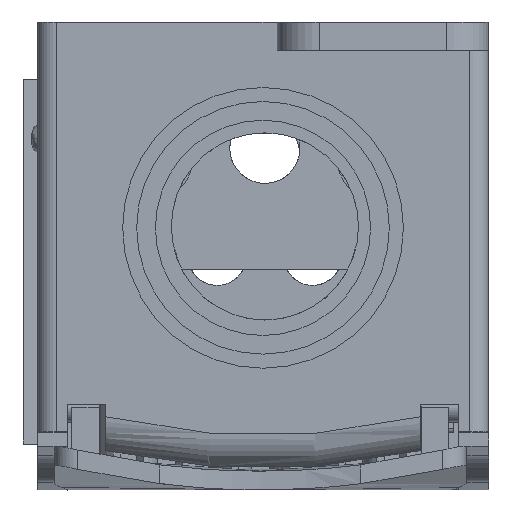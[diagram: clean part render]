
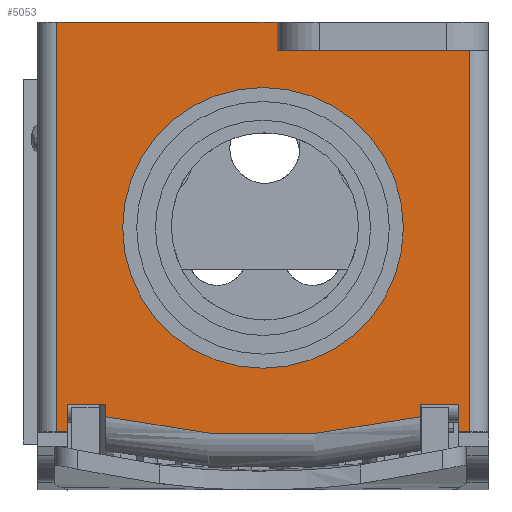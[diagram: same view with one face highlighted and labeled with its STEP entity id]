
A CAD part, front view. The second image highlights one B-rep face of the part: STEP entity #5053.
In plain terms, the highlighted planar face has unit normal (0, -1, 0).
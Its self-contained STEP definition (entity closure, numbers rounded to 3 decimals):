
#331=DIRECTION('',(-1.,0.,0.));
#332=VECTOR('',#331,1.2);
#333=CARTESIAN_POINT('',(97.74,27.7,-53.31));
#334=LINE('',#333,#332);
#344=DIRECTION('',(0.,0.,1.));
#345=VECTOR('',#344,1.263);
#346=CARTESIAN_POINT('',(92.44,27.7,-51.694));
#347=LINE('',#346,#345);
#348=CARTESIAN_POINT('',(75.64,27.7,18.014));
#349=DIRECTION('',(0.,-1.,0.));
#350=DIRECTION('',(-0.234,0.,-0.972));
#351=AXIS2_PLACEMENT_3D('',#348,#349,#350);
#353=DIRECTION('',(0.,0.,1.));
#354=VECTOR('',#353,2.879);
#355=CARTESIAN_POINT('',(54.74,27.7,-53.31));
#356=LINE('',#355,#354);
#357=CARTESIAN_POINT('',(75.64,27.7,-31.51));
#358=DIRECTION('',(0.,1.,0.));
#359=DIRECTION('',(-1.,0.,0.));
#360=AXIS2_PLACEMENT_3D('',#357,#358,#359);
#362=CARTESIAN_POINT('',(75.64,27.7,-31.51));
#363=DIRECTION('',(0.,1.,0.));
#364=DIRECTION('',(1.,0.,0.));
#365=AXIS2_PLACEMENT_3D('',#362,#363,#364);
#372=DIRECTION('',(-1.,0.,0.));
#373=VECTOR('',#372,1.2);
#374=CARTESIAN_POINT('',(54.74,27.7,-53.31));
#375=LINE('',#374,#373);
#506=DIRECTION('',(1.,0.,0.));
#507=VECTOR('',#506,23.6);
#508=CARTESIAN_POINT('',(53.54,27.7,-9.51));
#509=LINE('',#508,#507);
#625=DIRECTION('',(1.,0.,0.));
#626=VECTOR('',#625,20.6);
#627=CARTESIAN_POINT('',(77.14,27.7,-12.51));
#628=LINE('',#627,#626);
#2244=DIRECTION('',(-1.,0.,0.));
#2245=VECTOR('',#2244,4.1);
#2246=CARTESIAN_POINT('',(58.84,27.7,-50.431));
#2247=LINE('',#2246,#2245);
#2248=DIRECTION('',(0.,0.,1.));
#2249=VECTOR('',#2248,1.263);
#2250=CARTESIAN_POINT('',(58.84,27.7,-51.694));
#2251=LINE('',#2250,#2249);
#2317=DIRECTION('',(-1.,0.,0.));
#2318=VECTOR('',#2317,4.1);
#2319=CARTESIAN_POINT('',(96.54,27.7,-50.431));
#2320=LINE('',#2319,#2318);
#2321=DIRECTION('',(0.,0.,1.));
#2322=VECTOR('',#2321,2.879);
#2323=CARTESIAN_POINT('',(96.54,27.7,-53.31));
#2324=LINE('',#2323,#2322);
#3377=DIRECTION('',(0.,0.,-1.));
#3378=VECTOR('',#3377,3.);
#3379=CARTESIAN_POINT('',(77.14,27.7,-9.51));
#3380=LINE('',#3379,#3378);
#3385=DIRECTION('',(0.,0.,-1.));
#3386=VECTOR('',#3385,40.8);
#3387=CARTESIAN_POINT('',(97.74,27.7,-12.51));
#3388=LINE('',#3387,#3386);
#3425=DIRECTION('',(0.,0.,1.));
#3426=VECTOR('',#3425,43.8);
#3427=CARTESIAN_POINT('',(53.54,27.7,-53.31));
#3428=LINE('',#3427,#3426);
#3826=CARTESIAN_POINT('',(53.54,27.7,-53.31));
#3827=VERTEX_POINT('',#3826);
#3828=CARTESIAN_POINT('',(53.54,27.7,-9.51));
#3829=VERTEX_POINT('',#3828);
#3830=CARTESIAN_POINT('',(77.14,27.7,-9.51));
#3831=VERTEX_POINT('',#3830);
#3986=CARTESIAN_POINT('',(97.74,27.7,-12.51));
#3987=VERTEX_POINT('',#3986);
#3988=CARTESIAN_POINT('',(97.74,27.7,-53.31));
#3989=VERTEX_POINT('',#3988);
#3990=CARTESIAN_POINT('',(96.54,27.7,-53.31));
#3991=VERTEX_POINT('',#3990);
#4000=CARTESIAN_POINT('',(96.54,27.7,-50.431));
#4001=VERTEX_POINT('',#4000);
#4140=CARTESIAN_POINT('',(54.74,27.7,-50.431));
#4141=VERTEX_POINT('',#4140);
#4142=CARTESIAN_POINT('',(54.74,27.7,-53.31));
#4143=VERTEX_POINT('',#4142);
#4152=CARTESIAN_POINT('',(58.84,27.7,-50.431));
#4153=VERTEX_POINT('',#4152);
#4154=CARTESIAN_POINT('',(58.84,27.7,-51.694));
#4155=VERTEX_POINT('',#4154);
#4156=CARTESIAN_POINT('',(92.44,27.7,-51.694));
#4157=VERTEX_POINT('',#4156);
#4158=CARTESIAN_POINT('',(92.44,27.7,-50.431));
#4159=VERTEX_POINT('',#4158);
#4160=CARTESIAN_POINT('',(77.14,27.7,-12.51));
#4161=VERTEX_POINT('',#4160);
#4162=CARTESIAN_POINT('',(60.64,27.7,-31.51));
#4163=CARTESIAN_POINT('',(90.64,27.7,-31.51));
#4164=VERTEX_POINT('',#4162);
#4165=VERTEX_POINT('',#4163);
#5013=CARTESIAN_POINT('',(51.54,27.7,-9.51));
#5014=DIRECTION('',(0.,-1.,0.));
#5015=DIRECTION('',(0.,0.,-1.));
#5016=AXIS2_PLACEMENT_3D('',#5013,#5014,#5015);
#5017=PLANE('',#5016);
#5019=ORIENTED_EDGE('',*,*,#5018,.T.);
#5021=ORIENTED_EDGE('',*,*,#5020,.T.);
#5023=ORIENTED_EDGE('',*,*,#5022,.T.);
#5025=ORIENTED_EDGE('',*,*,#5024,.T.);
#5027=ORIENTED_EDGE('',*,*,#5026,.T.);
#5029=ORIENTED_EDGE('',*,*,#5028,.T.);
#5030=ORIENTED_EDGE('',*,*,#5001,.T.);
#5032=ORIENTED_EDGE('',*,*,#5031,.T.);
#5034=ORIENTED_EDGE('',*,*,#5033,.T.);
#5036=ORIENTED_EDGE('',*,*,#5035,.F.);
#5038=ORIENTED_EDGE('',*,*,#5037,.F.);
#5040=ORIENTED_EDGE('',*,*,#5039,.T.);
#5042=ORIENTED_EDGE('',*,*,#5041,.T.);
#5044=ORIENTED_EDGE('',*,*,#5043,.F.);
#5045=EDGE_LOOP('',(#5019,#5021,#5023,#5025,#5027,#5029,#5030,#5032,#5034,#5036,
#5038,#5040,#5042,#5044));
#5046=FACE_OUTER_BOUND('',#5045,.F.);
#5048=ORIENTED_EDGE('',*,*,#5047,.F.);
#5050=ORIENTED_EDGE('',*,*,#5049,.F.);
#5051=EDGE_LOOP('',(#5048,#5050));
#5052=FACE_BOUND('',#5051,.F.);
#5053=ADVANCED_FACE('',(#5046,#5052),#5017,.T.);
#352=CIRCLE('',#351,71.704);
#361=CIRCLE('',#360,15.);
#366=CIRCLE('',#365,15.);
#5001=EDGE_CURVE('',#3989,#3991,#334,.T.);
#5018=EDGE_CURVE('',#4143,#3827,#375,.T.);
#5020=EDGE_CURVE('',#3827,#3829,#3428,.T.);
#5022=EDGE_CURVE('',#3829,#3831,#509,.T.);
#5024=EDGE_CURVE('',#3831,#4161,#3380,.T.);
#5026=EDGE_CURVE('',#4161,#3987,#628,.T.);
#5028=EDGE_CURVE('',#3987,#3989,#3388,.T.);
#5031=EDGE_CURVE('',#3991,#4001,#2324,.T.);
#5033=EDGE_CURVE('',#4001,#4159,#2320,.T.);
#5035=EDGE_CURVE('',#4157,#4159,#347,.T.);
#5037=EDGE_CURVE('',#4155,#4157,#352,.T.);
#5039=EDGE_CURVE('',#4155,#4153,#2251,.T.);
#5041=EDGE_CURVE('',#4153,#4141,#2247,.T.);
#5043=EDGE_CURVE('',#4143,#4141,#356,.T.);
#5047=EDGE_CURVE('',#4164,#4165,#361,.T.);
#5049=EDGE_CURVE('',#4165,#4164,#366,.T.);
